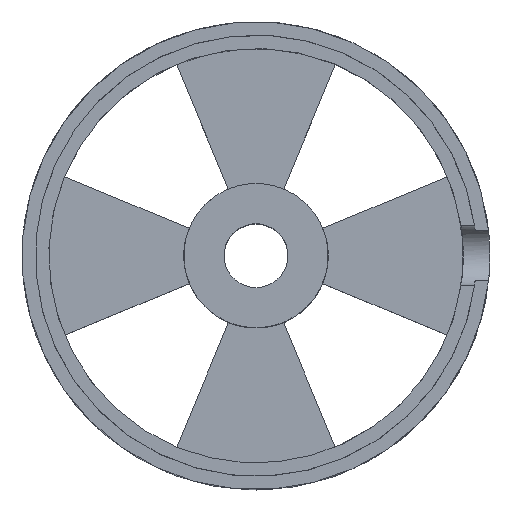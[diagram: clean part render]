
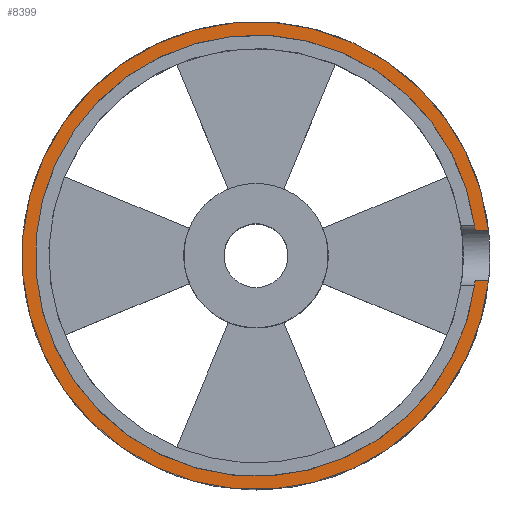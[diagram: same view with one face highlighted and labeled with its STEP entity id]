
A CAD part, top view. The second image highlights one B-rep face of the part: STEP entity #8399.
In plain terms, the highlighted planar face has unit normal (0, 0, 1).
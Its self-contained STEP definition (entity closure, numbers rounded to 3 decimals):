
#22 = VERTEX_POINT('',#23);
#23 = CARTESIAN_POINT('',(8.196,0.942,8.));
#33 = CYLINDRICAL_SURFACE('',#34,1.125);
#34 = AXIS2_PLACEMENT_3D('',#35,#36,#37);
#35 = CARTESIAN_POINT('',(8.073,0.,
    8.615));
#36 = DIRECTION('',(1.,0.,0.
    ));
#37 = DIRECTION('',(0.,0.,1.)
  );
#67 = CYLINDRICAL_SURFACE('',#68,8.25);
#68 = AXIS2_PLACEMENT_3D('',#69,#70,#71);
#69 = CARTESIAN_POINT('',(0.,0.,
    8.3));
#70 = DIRECTION('',(0.,0.,1.
    ));
#71 = DIRECTION('',(1.,0.,
    0.));
#101 = EDGE_CURVE('',#102,#22,#104,.T.);
#102 = VERTEX_POINT('',#103);
#103 = CARTESIAN_POINT('',(8.699,0.942,8.)
  );
#104 = SURFACE_CURVE('',#105,(#109,#116),.PCURVE_S1.);
#105 = LINE('',#106,#107);
#106 = CARTESIAN_POINT('',(8.699,0.942,8.)
  );
#107 = VECTOR('',#108,1.);
#108 = DIRECTION('',(-1.,0.,
    0.));
#109 = PCURVE('',#33,#110);
#110 = DEFINITIONAL_REPRESENTATION('',(#111),#115);
#111 = LINE('',#112,#113);
#112 = CARTESIAN_POINT('',(4.134,0.626));
#113 = VECTOR('',#114,1.);
#114 = DIRECTION('',(0.,-1.));
#115 = ( GEOMETRIC_REPRESENTATION_CONTEXT(2) 
PARAMETRIC_REPRESENTATION_CONTEXT() REPRESENTATION_CONTEXT('2D SPACE',''
  ) );
#116 = PCURVE('',#117,#122);
#117 = PLANE('',#118);
#118 = AXIS2_PLACEMENT_3D('',#119,#120,#121);
#119 = CARTESIAN_POINT('',(-0.169,0.,8.));
#120 = DIRECTION('',(0.,0.,1.));
#121 = DIRECTION('',(0.,1.,0.));
#122 = DEFINITIONAL_REPRESENTATION('',(#123),#127);
#123 = LINE('',#124,#125);
#124 = CARTESIAN_POINT('',(0.942,-8.868));
#125 = VECTOR('',#126,1.);
#126 = DIRECTION('',(0.,1.));
#127 = ( GEOMETRIC_REPRESENTATION_CONTEXT(2) 
PARAMETRIC_REPRESENTATION_CONTEXT() REPRESENTATION_CONTEXT('2D SPACE',''
  ) );
#130 = VERTEX_POINT('',#131);
#131 = CARTESIAN_POINT('',(8.699,-0.942,8.
    ));
#169 = CYLINDRICAL_SURFACE('',#170,8.75);
#170 = AXIS2_PLACEMENT_3D('',#171,#172,#173);
#171 = CARTESIAN_POINT('',(0.,0.,
    7.519));
#172 = DIRECTION('',(0.,0.,
    1.));
#173 = DIRECTION('',(0.,1.,0.));
#203 = EDGE_CURVE('',#204,#130,#206,.T.);
#204 = VERTEX_POINT('',#205);
#205 = CARTESIAN_POINT('',(8.196,-0.942,8.));
#206 = SURFACE_CURVE('',#207,(#211,#218),.PCURVE_S1.);
#207 = LINE('',#208,#209);
#208 = CARTESIAN_POINT('',(8.196,-0.942,8.));
#209 = VECTOR('',#210,1.);
#210 = DIRECTION('',(1.,0.,
    0.));
#211 = PCURVE('',#33,#212);
#212 = DEFINITIONAL_REPRESENTATION('',(#213),#217);
#213 = LINE('',#214,#215);
#214 = CARTESIAN_POINT('',(2.149,0.123));
#215 = VECTOR('',#216,1.);
#216 = DIRECTION('',(0.,1.));
#217 = ( GEOMETRIC_REPRESENTATION_CONTEXT(2) 
PARAMETRIC_REPRESENTATION_CONTEXT() REPRESENTATION_CONTEXT('2D SPACE',''
  ) );
#218 = PCURVE('',#117,#219);
#219 = DEFINITIONAL_REPRESENTATION('',(#220),#224);
#220 = LINE('',#221,#222);
#221 = CARTESIAN_POINT('',(-0.942,-8.365));
#222 = VECTOR('',#223,1.);
#223 = DIRECTION('',(0.,-1.));
#224 = ( GEOMETRIC_REPRESENTATION_CONTEXT(2) 
PARAMETRIC_REPRESENTATION_CONTEXT() REPRESENTATION_CONTEXT('2D SPACE',''
  ) );
#8399 = ADVANCED_FACE('',(#8400),#117,.T.);
#8400 = FACE_BOUND('',#8401,.T.);
#8401 = EDGE_LOOP('',(#8402,#8403,#8429,#8430));
#8402 = ORIENTED_EDGE('',*,*,#203,.F.);
#8403 = ORIENTED_EDGE('',*,*,#8404,.T.);
#8404 = EDGE_CURVE('',#204,#22,#8405,.T.);
#8405 = SURFACE_CURVE('',#8406,(#8411,#8422),.PCURVE_S1.);
#8406 = CIRCLE('',#8407,8.25);
#8407 = AXIS2_PLACEMENT_3D('',#8408,#8409,#8410);
#8408 = CARTESIAN_POINT('',(0.,0.,8.));
#8409 = DIRECTION('',(0.,0.,-1.));
#8410 = DIRECTION('',(0.993,-0.114,0.)
  );
#8411 = PCURVE('',#117,#8412);
#8412 = DEFINITIONAL_REPRESENTATION('',(#8413),#8421);
#8413 = ( BOUNDED_CURVE() B_SPLINE_CURVE(2,(#8414,#8415,#8416,#8417,
#8418,#8419,#8420),.UNSPECIFIED.,.T.,.F.) B_SPLINE_CURVE_WITH_KNOTS((1,2
    ,2,2,2,1),(-2.094,0.,2.094,4.189,
6.283,8.378),.UNSPECIFIED.) CURVE() 
GEOMETRIC_REPRESENTATION_ITEM() RATIONAL_B_SPLINE_CURVE((1.,0.5,1.,0.5,
1.,0.5,1.)) REPRESENTATION_ITEM('') );
#8414 = CARTESIAN_POINT('',(-0.942,-8.365));
#8415 = CARTESIAN_POINT('',(-15.138,-6.733));
#8416 = CARTESIAN_POINT('',(-6.627,4.745));
#8417 = CARTESIAN_POINT('',(1.885,16.223));
#8418 = CARTESIAN_POINT('',(7.569,3.113));
#8419 = CARTESIAN_POINT('',(13.254,-9.997));
#8420 = CARTESIAN_POINT('',(-0.942,-8.365));
#8421 = ( GEOMETRIC_REPRESENTATION_CONTEXT(2) 
PARAMETRIC_REPRESENTATION_CONTEXT() REPRESENTATION_CONTEXT('2D SPACE',''
  ) );
#8422 = PCURVE('',#67,#8423);
#8423 = DEFINITIONAL_REPRESENTATION('',(#8424),#8428);
#8424 = LINE('',#8425,#8426);
#8425 = CARTESIAN_POINT('',(6.169,-0.3));
#8426 = VECTOR('',#8427,1.);
#8427 = DIRECTION('',(-1.,0.));
#8428 = ( GEOMETRIC_REPRESENTATION_CONTEXT(2) 
PARAMETRIC_REPRESENTATION_CONTEXT() REPRESENTATION_CONTEXT('2D SPACE',''
  ) );
#8429 = ORIENTED_EDGE('',*,*,#101,.F.);
#8430 = ORIENTED_EDGE('',*,*,#8431,.T.);
#8431 = EDGE_CURVE('',#102,#130,#8432,.T.);
#8432 = SURFACE_CURVE('',#8433,(#8438,#8445),.PCURVE_S1.);
#8433 = CIRCLE('',#8434,8.75);
#8434 = AXIS2_PLACEMENT_3D('',#8435,#8436,#8437);
#8435 = CARTESIAN_POINT('',(0.,0.,8.));
#8436 = DIRECTION('',(0.,0.,1.));
#8437 = DIRECTION('',(0.994,0.108,0.));
#8438 = PCURVE('',#117,#8439);
#8439 = DEFINITIONAL_REPRESENTATION('',(#8440),#8444);
#8440 = CIRCLE('',#8441,8.75);
#8441 = AXIS2_PLACEMENT_2D('',#8442,#8443);
#8442 = CARTESIAN_POINT('',(0.,-0.169));
#8443 = DIRECTION('',(0.108,-0.994));
#8444 = ( GEOMETRIC_REPRESENTATION_CONTEXT(2) 
PARAMETRIC_REPRESENTATION_CONTEXT() REPRESENTATION_CONTEXT('2D SPACE',''
  ) );
#8445 = PCURVE('',#169,#8446);
#8446 = DEFINITIONAL_REPRESENTATION('',(#8447),#8450);
#8447 = B_SPLINE_CURVE_WITH_KNOTS('',1,(#8448,#8449),.UNSPECIFIED.,.F.,
  .F.,(2,2),(0.,6.067),.PIECEWISE_BEZIER_KNOTS.);
#8448 = CARTESIAN_POINT('',(4.82,0.482));
#8449 = CARTESIAN_POINT('',(10.888,0.482));
#8450 = ( GEOMETRIC_REPRESENTATION_CONTEXT(2) 
PARAMETRIC_REPRESENTATION_CONTEXT() REPRESENTATION_CONTEXT('2D SPACE',''
  ) );
